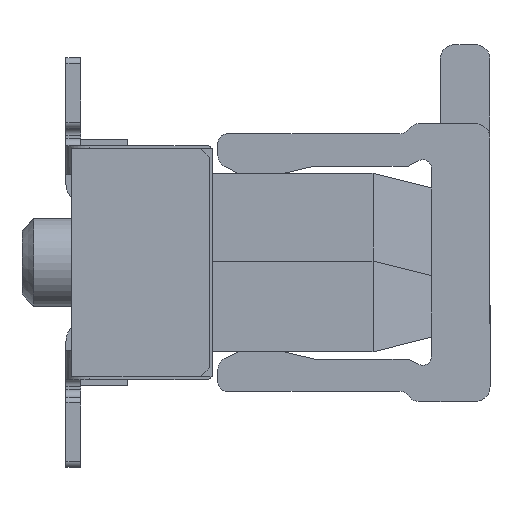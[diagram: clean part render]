
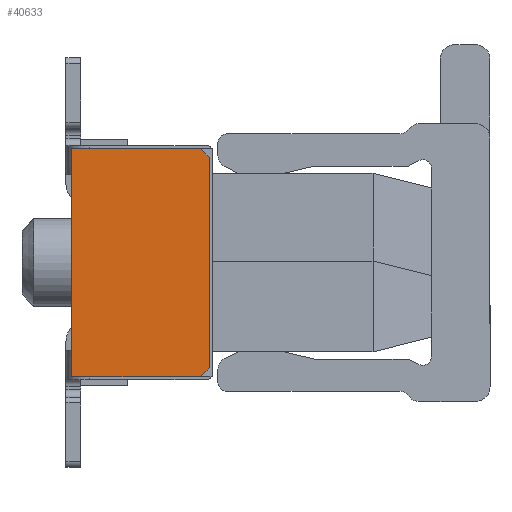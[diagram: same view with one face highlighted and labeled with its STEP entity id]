
A CAD part, left-side view. The second image highlights one B-rep face of the part: STEP entity #40633.
In plain terms, the highlighted planar face has unit normal (-1, 0, 0).
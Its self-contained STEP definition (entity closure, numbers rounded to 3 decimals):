
#304 = CARTESIAN_POINT ( 'NONE',  ( -22.33, -5.11, 0.425 ) ) ;
#309 = CARTESIAN_POINT ( 'NONE',  ( -22.33, -5.11, -3.475 ) ) ;
#447 = CARTESIAN_POINT ( 'NONE',  ( -22.33, -7.31, 0.425 ) ) ;
#449 = CARTESIAN_POINT ( 'NONE',  ( -22.33, -7.31, -3.475 ) ) ;
#5715 = LINE ( 'NONE', #5730, #58094 ) ;
#5730 = CARTESIAN_POINT ( 'NONE',  ( -22.33, -7.46, -3.625 ) ) ;
#5731 = DIRECTION ( 'NONE',  ( 0., 0., 1. ) ) ;
#8522 = PLANE ( 'NONE',  #30397 ) ;
#8551 = FACE_OUTER_BOUND ( 'NONE', #37677, .T. ) ;
#8574 = CARTESIAN_POINT ( 'NONE',  ( -22.33, -7.61, -3.625 ) ) ;
#8575 = DIRECTION ( 'NONE',  ( -1., 0., 0. ) ) ;
#8577 = DIRECTION ( 'NONE',  ( 0., 0., 1. ) ) ;
#15778 = ORIENTED_EDGE ( 'NONE', *, *, #41801, .T. ) ;
#15787 = ORIENTED_EDGE ( 'NONE', *, *, #44147, .T. ) ;
#15788 = ORIENTED_EDGE ( 'NONE', *, *, #44202, .T. ) ;
#15819 = ORIENTED_EDGE ( 'NONE', *, *, #42000, .T. ) ;
#15833 = ORIENTED_EDGE ( 'NONE', *, *, #43729, .T. ) ;
#16185 = ORIENTED_EDGE ( 'NONE', *, *, #44266, .T. ) ;
#19000 = CARTESIAN_POINT ( 'NONE',  ( -22.33, -7.46, 0.275 ) ) ;
#19008 = LINE ( 'NONE', #19000, #51527 ) ;
#19021 = DIRECTION ( 'NONE',  ( 0., 0.707, 0.707 ) ) ;
#23026 = VERTEX_POINT ( 'NONE', #41353 ) ;
#23175 = VERTEX_POINT ( 'NONE', #55762 ) ;
#26771 = LINE ( 'NONE', #26773, #35859 ) ;
#26773 = CARTESIAN_POINT ( 'NONE',  ( -22.33, -4.26, 0.425 ) ) ;
#26775 = DIRECTION ( 'NONE',  ( 0., 1., 0. ) ) ;
#26941 = LINE ( 'NONE', #26964, #35924 ) ;
#26964 = CARTESIAN_POINT ( 'NONE',  ( -22.33, -5.11, -0.29 ) ) ;
#26968 = DIRECTION ( 'NONE',  ( 0., 0., -1. ) ) ;
#27214 = LINE ( 'NONE', #27216, #36039 ) ;
#27216 = CARTESIAN_POINT ( 'NONE',  ( -22.33, -4.26, -3.475 ) ) ;
#27218 = DIRECTION ( 'NONE',  ( 0., -1., 0. ) ) ;
#30397 = AXIS2_PLACEMENT_3D ( 'NONE', #8574, #8575, #8577 ) ;
#35859 = VECTOR ( 'NONE', #26775, 1000. ) ;
#35924 = VECTOR ( 'NONE', #26968, 1000. ) ;
#36039 = VECTOR ( 'NONE', #27218, 1000. ) ;
#37677 = EDGE_LOOP ( 'NONE', ( #16185, #15778, #15833, #15819, #15787, #15788 ) ) ;
#37929 = VERTEX_POINT ( 'NONE', #304 ) ;
#37934 = VERTEX_POINT ( 'NONE', #309 ) ;
#38072 = VERTEX_POINT ( 'NONE', #447 ) ;
#38074 = VERTEX_POINT ( 'NONE', #449 ) ;
#40633 = ADVANCED_FACE ( 'NONE', ( #8551 ), #8522, .T. ) ;
#41353 = CARTESIAN_POINT ( 'NONE',  ( -22.33, -7.46, -3.325 ) ) ;
#41801 = EDGE_CURVE ( 'NONE', #38074, #23026, #53426, .T. ) ;
#42000 = EDGE_CURVE ( 'NONE', #23175, #38072, #19008, .T. ) ;
#43729 = EDGE_CURVE ( 'NONE', #23026, #23175, #5715, .T. ) ;
#44147 = EDGE_CURVE ( 'NONE', #38072, #37929, #26771, .T. ) ;
#44202 = EDGE_CURVE ( 'NONE', #37929, #37934, #26941, .T. ) ;
#44266 = EDGE_CURVE ( 'NONE', #37934, #38074, #27214, .T. ) ;
#51310 = VECTOR ( 'NONE', #53433, 1000. ) ;
#51527 = VECTOR ( 'NONE', #19021, 1000. ) ;
#53426 = LINE ( 'NONE', #53431, #51310 ) ;
#53431 = CARTESIAN_POINT ( 'NONE',  ( -22.33, -7.31, -3.475 ) ) ;
#53433 = DIRECTION ( 'NONE',  ( 0., -0.707, 0.707 ) ) ;
#55762 = CARTESIAN_POINT ( 'NONE',  ( -22.33, -7.46, 0.275 ) ) ;
#58094 = VECTOR ( 'NONE', #5731, 1000. ) ;
